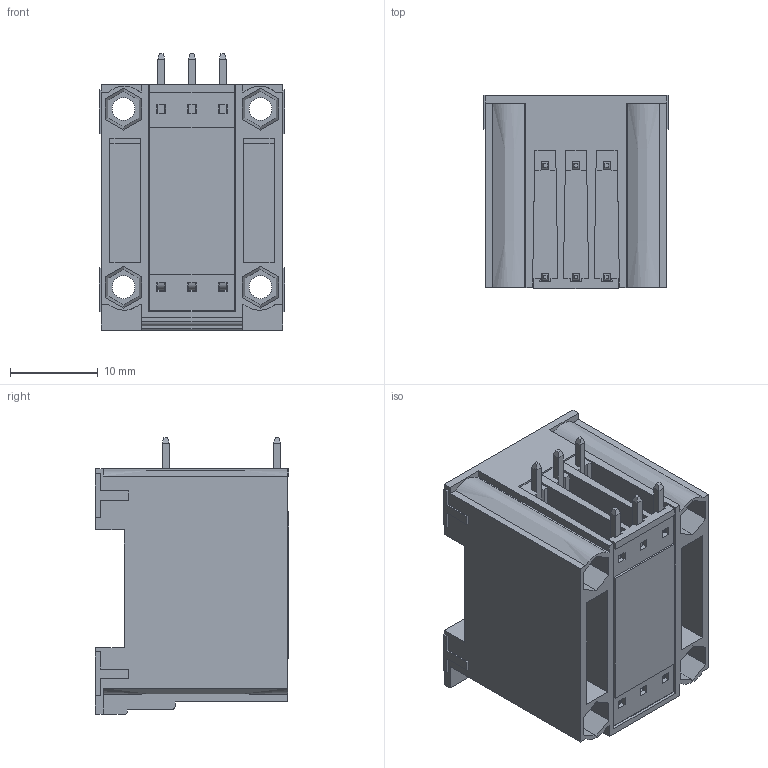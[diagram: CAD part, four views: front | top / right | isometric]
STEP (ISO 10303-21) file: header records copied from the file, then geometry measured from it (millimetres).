
FILE_DESCRIPTION((''),'2;1');
FILE_NAME('VL06','2022-06-15T',('renkang.li'),(''),'CREO PARAMETRIC BY PTC INC, 2016260','CREO PARAMETRIC BY PTC INC, 2016260','');
FILE_SCHEMA(('CONFIG_CONTROL_DESIGN'));
Length unit declared in the file: metre
Products named in the file (1): VL06
Bounding box: 21.1 x 22 x 31.5 mm (x, y, z)
Volume: 4497.7 mm3; surface area: 10279.3 mm2
Topology: 1 solids, 4 shells, 726 faces, 1991 edges, 1280 vertices
Faces by surface type: plane 634, cylinder 64, torus 12, cone 12, extrusion 4
Entity records: 22684 total; most frequent: CARTESIAN_POINT 4098, ORIENTED_EDGE 3982, DIRECTION 3587, EDGE_CURVE 1991, VECTOR 1807, LINE 1803, VERTEX_POINT 1280, AXIS2_PLACEMENT_3D 890
